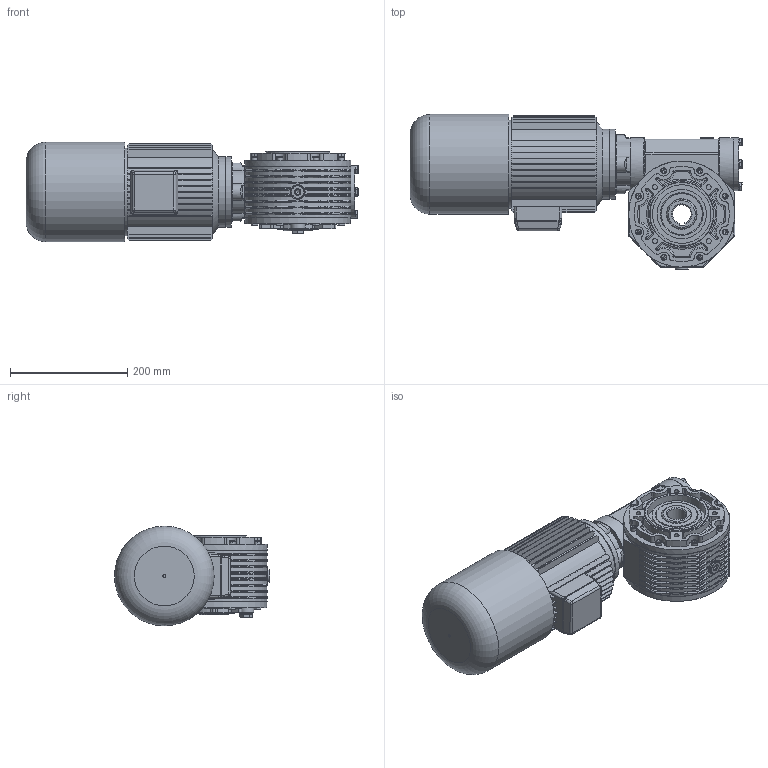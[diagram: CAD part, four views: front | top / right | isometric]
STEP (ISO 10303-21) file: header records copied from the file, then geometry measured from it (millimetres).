
FILE_DESCRIPTION((''),'2;1');
FILE_NAME('Y:\Archivi Inventor\Prog_01\GRAND_40\figurini\MRV40_SITO\80_AUTOFRENANTE\MRV40_FP1_80_B14.stp','2013-02-06T14:49:16',('tech3'),(''),'Autodesk Inventor 2013','Autodesk Inventor 2013','');
FILE_SCHEMA(('AUTOMOTIVE_DESIGN { 1 0 10303 214 1 1 1 1 }'));
Length unit declared in the file: millimetre
Products named in the file (20): mrv40_80_B14; MRV40 figurino; 0104001.A0 figurino; 0104009.A0 figurino; 0104028; 0104029; fig_mozzo corona. MRV-RV40cusc_conici; PARAOLIO 35x47x8; PARAOLIO 50x70x10; Guarnizione 3_8 GAS; Tappo 3_8 GAS_esagn_incsst; UNI 5931  M 8 x  25; FIG_0104002; DIN EN ISO 4762 M6 x 20; Tappo3_8 GAS; UNI 5739  M6 x 20; FIG_0104004; UNI 5739 M8 x 20; 0104006; motori B14 brake 80
Assembly tree (45 placements, depth 3):
  mrv40_80_B14
    MRV40 figurino
      0104001.A0 figurino
      0104009.A0 figurino
      0104028  x2
      0104029  x2
      fig_mozzo corona. MRV-RV40cusc_conici
      PARAOLIO 35x47x8
      PARAOLIO 50x70x10  x2
      Guarnizione 3_8 GAS  x3
      Tappo 3_8 GAS_esagn_incsst  x2
      UNI 5931  M 8 x  25  x4
      FIG_0104002
      DIN EN ISO 4762 M6 x 20  x8
      Tappo3_8 GAS
      UNI 5739  M6 x 20  x8
      FIG_0104004
      UNI 5739 M8 x 20  x4
    0104006
    motori B14 brake 80
Bounding box: 566.1 x 264.5 x 170 mm (x, y, z)
Volume: 7543973.2 mm3; surface area: 942115.3 mm2
Topology: 45 solids, 45 shells, 1957 faces, 4719 edges, 2855 vertices
Faces by surface type: plane 833, cylinder 629, torus 159, cone 158, bspline 142, sphere 36
Full cylindrical faces by diameter (mm): 2 x2, 4.917 x20, 5 x1, 6 x16, 6.5 x32, 7 x4, 8 x10, 8.376 x4, 8.5 x12, 8.75 x4, 8.88 x8, 10 x8, 11.63 x4, 13 x8, 13.046 x1, 14.95 x3, 16.3 x3, 16.5 x2, 19 x1, 22 x6, 25 x2, 39.605 x1, 43.5 x1, 47 x2, 50 x1, 55 x1, 56.381 x2, 62 x3, 65 x2, 70 x4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
Entity records: 53449 total; most frequent: CARTESIAN_POINT 16411, DIRECTION 7732, ORIENTED_EDGE 7170, EDGE_CURVE 3585, AXIS2_PLACEMENT_3D 3096, VERTEX_POINT 2289, EDGE_LOOP 1890, CIRCLE 1608
